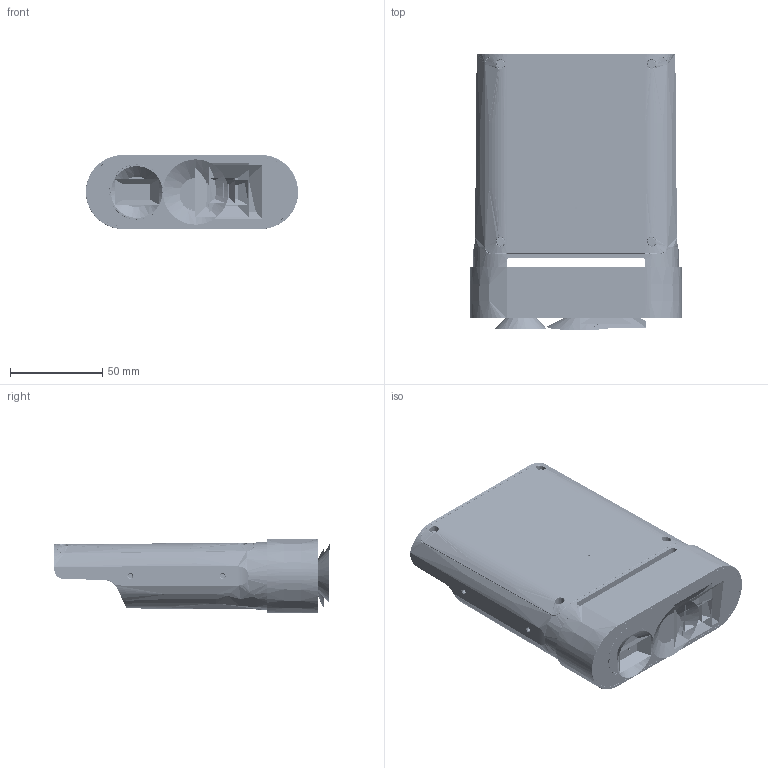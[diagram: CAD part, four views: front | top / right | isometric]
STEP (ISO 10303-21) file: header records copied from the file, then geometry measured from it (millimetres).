
FILE_DESCRIPTION(('CATIA V5 STEP Exchange'),'2;1');
FILE_NAME('E:\000-My_Works\1 - Items\099_Project Others\英文外发规格书\Femto mega\1-3D\3D-mega-out\008.stp','2024-01-24T09:30:07+00:00',('none'),('none'),'CATIA Version 5 Release 21 GA (IN-10)','CATIA V5 STEP AP203 Edition 2','none');
FILE_SCHEMA(('AP203_CONFIGURATION_CONTROLLED_3D_DESIGN_OF_MECHANICAL_PARTS_AND_ASSEMBLIES_MIM_LF { 1 0 10303 403 2 1 2}'));
Products named in the file (1): Femto mega without covering_AllCATPart
Bounding box: 115.26 x 150.07 x 40.26 mm (x, y, z)
Volume: 138761 mm3; surface area: 148239.9 mm2
Topology: 28 solids, 90 shells, 9629 faces, 27259 edges, 17604 vertices
Faces by surface type: plane 6317, cylinder 2716, cone 255, bspline 133, torus 123, extrusion 49, sphere 36
Entity records: 347046 total; most frequent: CARTESIAN_POINT 103933, ORIENTED_EDGE 54283, DIRECTION 42627, EDGE_CURVE 27218, VECTOR 19902, LINE 19853, VERTEX_POINT 17598, AXIS2_PLACEMENT_3D 13284
